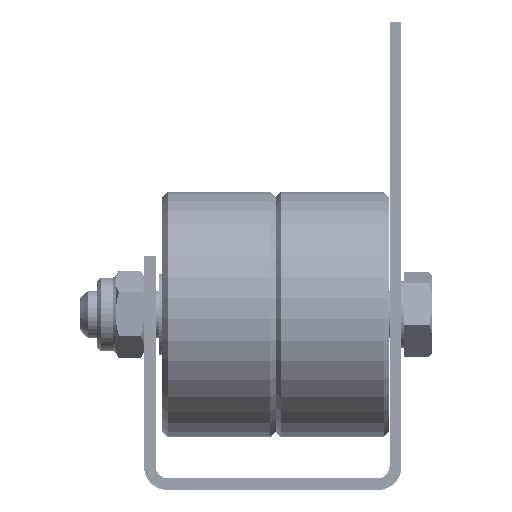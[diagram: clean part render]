
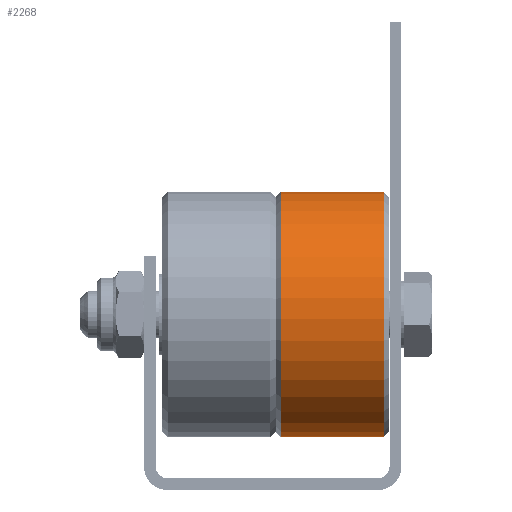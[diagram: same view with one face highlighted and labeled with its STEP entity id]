
A CAD part, front view. The second image highlights one B-rep face of the part: STEP entity #2268.
In plain terms, the highlighted cylindrical face has radius 21 mm (diameter 42 mm), a full revolution.
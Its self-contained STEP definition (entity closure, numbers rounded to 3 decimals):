
#2268 = ADVANCED_FACE( '', ( #4014, #4015 ), #4016, .T. );
#4014 = FACE_OUTER_BOUND( '', #6168, .T. );
#4015 = FACE_OUTER_BOUND( '', #6169, .T. );
#4016 = CYLINDRICAL_SURFACE( '', #6170, 21. );
#6168 = EDGE_LOOP( '', ( #8903 ) );
#6169 = EDGE_LOOP( '', ( #8904 ) );
#6170 = AXIS2_PLACEMENT_3D( '', #8905, #8906, #8907 );
#8903 = ORIENTED_EDGE( '', *, *, #12379, .T. );
#8904 = ORIENTED_EDGE( '', *, *, #12422, .T. );
#8905 = CARTESIAN_POINT( '', ( 0., -9.75, 0. ) );
#8906 = DIRECTION( '', ( 0., -1., 0. ) );
#8907 = DIRECTION( '', ( 0., 0., 1. ) );
#12379 = EDGE_CURVE( '', #14158, #14158, #14159, .F. );
#12422 = EDGE_CURVE( '', #14230, #14230, #14231, .T. );
#14158 = VERTEX_POINT( '', #16839 );
#14159 = CIRCLE( '', #16840, 21. );
#14230 = VERTEX_POINT( '', #16933 );
#14231 = CIRCLE( '', #16934, 21. );
#16839 = CARTESIAN_POINT( '', ( 0., 8.75, 21. ) );
#16840 = AXIS2_PLACEMENT_3D( '', #20116, #20117, #20118 );
#16933 = CARTESIAN_POINT( '', ( 0., -8.75, 21. ) );
#16934 = AXIS2_PLACEMENT_3D( '', #20183, #20184, #20185 );
#20116 = CARTESIAN_POINT( '', ( 0., 8.75, 0. ) );
#20117 = DIRECTION( '', ( 0., 1., 0. ) );
#20118 = DIRECTION( '', ( 0., 0., 1. ) );
#20183 = CARTESIAN_POINT( '', ( 0., -8.75, 0. ) );
#20184 = DIRECTION( '', ( 0., 1., 0. ) );
#20185 = DIRECTION( '', ( 0., 0., 1. ) );
